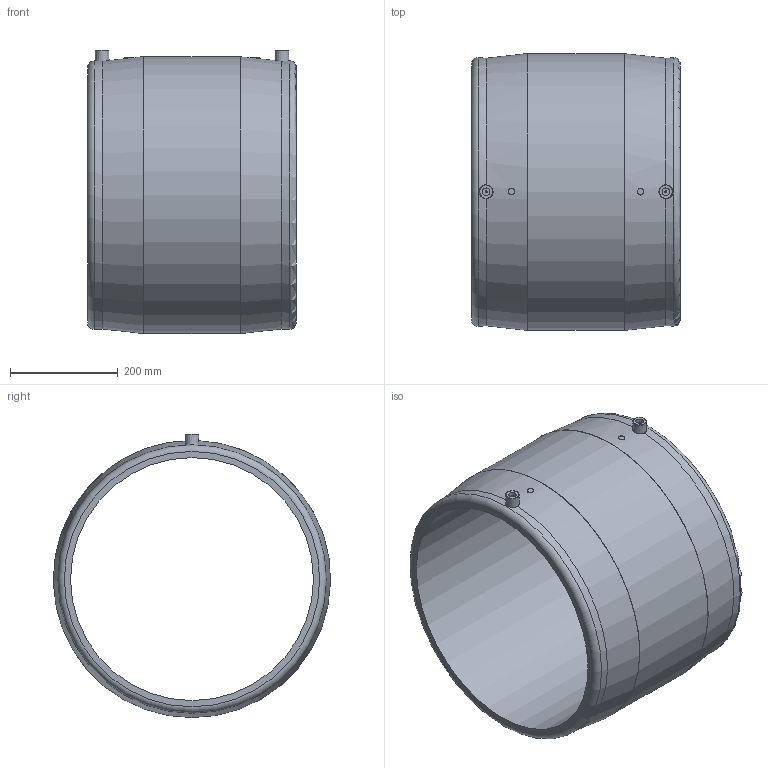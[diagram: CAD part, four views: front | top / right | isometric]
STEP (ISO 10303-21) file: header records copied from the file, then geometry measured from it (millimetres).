
FILE_DESCRIPTION(/* description */ ('Unknown'),/* implementation_level */ '2;1');
FILE_NAME(/* name */ 'MP450A',/* time_stamp */ '2021-05-05T15:02:57+02:00',/* author */ ('Unknown'),/* organization */ ('Unknown'),/* preprocessor_version */ 'ST-DEVELOPER v16.7',/* originating_system */ 'Solid Edge',/* authorisation */ 'Unknown');
FILE_SCHEMA (('AUTOMOTIVE_DESIGN {1 0 10303 214 3 1 1}'));
Length unit declared in the file: millimetre
Products named in the file (1): MP450A
Bounding box: 387 x 513 x 524.5 mm (x, y, z)
Volume: 16608053.2 mm3; surface area: 1223719.6 mm2
Topology: 1 solids, 1 shells, 30 faces, 63 edges, 41 vertices
Faces by surface type: plane 10, cylinder 8, cone 6, torus 6
Full cylindrical faces by diameter (mm): 4 x2, 12 x2, 14 x2, 450 x1, 513 x1
Entity records: 696 total; most frequent: CARTESIAN_POINT 157, DIRECTION 114, ORIENTED_EDGE 64, EDGE_LOOP 58, FACE_BOUND 58, AXIS2_PLACEMENT_3D 57, EDGE_CURVE 32, VERTEX_POINT 30
